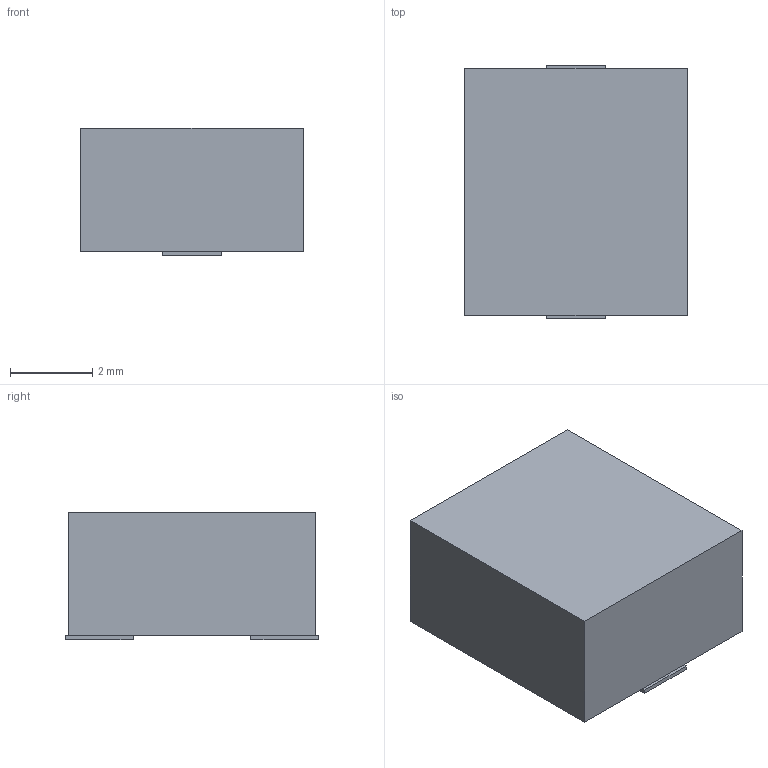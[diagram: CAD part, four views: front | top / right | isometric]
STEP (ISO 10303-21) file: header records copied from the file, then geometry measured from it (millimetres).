
FILE_DESCRIPTION(('FreeCAD Model'),'2;1');
FILE_NAME('/var/www/3D/0T/1050519.1.1.stp','2021-11-04T07:20:04',( 'Author'),(''),'Open CASCADE STEP processor 6.9','FreeCAD','Unknown' );
FILE_SCHEMA(('AUTOMOTIVE_DESIGN { 1 0 10303 214 1 1 1 1 }'));
Length unit declared in the file: millimetre
Products named in the file (3): ASSEMBLY; Body; Pins
Assembly tree (2 placements, depth 2):
  ASSEMBLY
    Body
    Pins
Bounding box: 5.4 x 6.14 x 3.1 mm (x, y, z)
Volume: 97.7 mm3; surface area: 143.9 mm2
Topology: 3 solids, 3 shells, 18 faces, 36 edges, 24 vertices
Faces by surface type: plane 18
Entity records: 1001 total; most frequent: CARTESIAN_POINT 153, DIRECTION 150, LINE 108, VECTOR 108, ORIENTED_EDGE 72, PCURVE 72, DEFINITIONAL_REPRESENTATION 72, EDGE_CURVE 36
